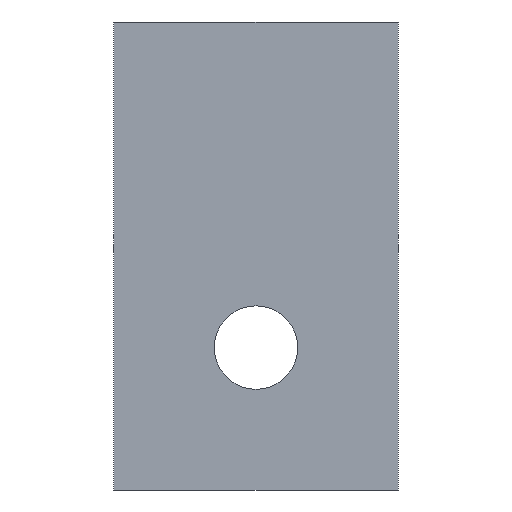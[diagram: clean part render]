
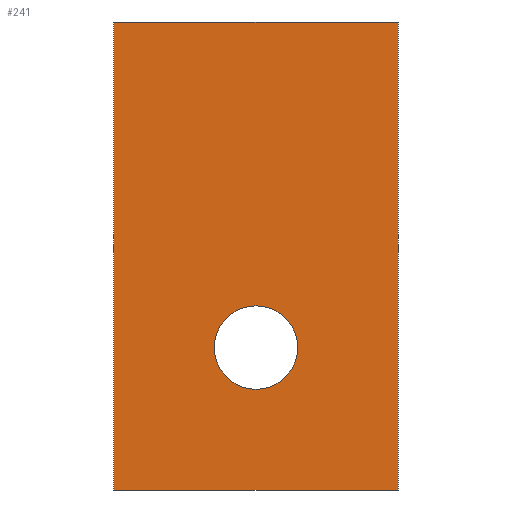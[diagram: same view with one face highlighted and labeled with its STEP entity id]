
A CAD part, front view. The second image highlights one B-rep face of the part: STEP entity #241.
In plain terms, the highlighted planar face has unit normal (0, -1, 0).
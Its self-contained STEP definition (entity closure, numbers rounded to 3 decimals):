
#12 = DIRECTION ( 'NONE',  ( 0., 1., 0. ) ) ;
#15 = VERTEX_POINT ( 'NONE', #225 ) ;
#17 = VERTEX_POINT ( 'NONE', #218 ) ;
#21 = FACE_BOUND ( 'NONE', #233, .T. ) ;
#33 = CARTESIAN_POINT ( 'NONE',  ( 35., 0., -69.75 ) ) ;
#39 = CARTESIAN_POINT ( 'NONE',  ( 35., 0., -80. ) ) ;
#53 = CARTESIAN_POINT ( 'NONE',  ( 0., 0., -115. ) ) ;
#54 = CARTESIAN_POINT ( 'NONE',  ( 0., 0., -115. ) ) ;
#55 = VERTEX_POINT ( 'NONE', #54 ) ;
#60 = DIRECTION ( 'NONE',  ( 0., 0., 1. ) ) ;
#62 = DIRECTION ( 'NONE',  ( 0., 1., 0. ) ) ;
#77 = VERTEX_POINT ( 'NONE', #246 ) ;
#82 = VECTOR ( 'NONE', #143, 1000. ) ;
#84 = ORIENTED_EDGE ( 'NONE', *, *, #126, .T. ) ;
#87 = PLANE ( 'NONE',  #154 ) ;
#108 = EDGE_CURVE ( 'NONE', #15, #77, #195, .T. ) ;
#112 = EDGE_CURVE ( 'NONE', #77, #55, #172, .T. ) ;
#116 = CARTESIAN_POINT ( 'NONE',  ( 0., 0., 0. ) ) ;
#117 = VERTEX_POINT ( 'NONE', #180 ) ;
#126 = EDGE_CURVE ( 'NONE', #184, #117, #229, .T. ) ;
#131 = CARTESIAN_POINT ( 'NONE',  ( 35., 0., -80. ) ) ;
#135 = EDGE_LOOP ( 'NONE', ( #150, #183, #208, #190 ) ) ;
#138 = VECTOR ( 'NONE', #60, 1000. ) ;
#143 = DIRECTION ( 'NONE',  ( 1., 0., 0. ) ) ;
#145 = CARTESIAN_POINT ( 'NONE',  ( 0., 0., 0. ) ) ;
#148 = DIRECTION ( 'NONE',  ( 0., 0., -1. ) ) ;
#150 = ORIENTED_EDGE ( 'NONE', *, *, #297, .F. ) ;
#154 = AXIS2_PLACEMENT_3D ( 'NONE', #211, #284, #162 ) ;
#162 = DIRECTION ( 'NONE',  ( 0., 0., -1. ) ) ;
#164 = DIRECTION ( 'NONE',  ( 0., 0., 1. ) ) ;
#172 = LINE ( 'NONE', #53, #185 ) ;
#180 = CARTESIAN_POINT ( 'NONE',  ( 35., 0., -90.25 ) ) ;
#181 = DIRECTION ( 'NONE',  ( 0., 0., 1. ) ) ;
#183 = ORIENTED_EDGE ( 'NONE', *, *, #112, .F. ) ;
#184 = VERTEX_POINT ( 'NONE', #33 ) ;
#185 = VECTOR ( 'NONE', #226, 1000. ) ;
#188 = FACE_OUTER_BOUND ( 'NONE', #135, .T. ) ;
#190 = ORIENTED_EDGE ( 'NONE', *, *, #290, .F. ) ;
#195 = LINE ( 'NONE', #271, #254 ) ;
#208 = ORIENTED_EDGE ( 'NONE', *, *, #108, .F. ) ;
#211 = CARTESIAN_POINT ( 'NONE',  ( 0., 0., 0. ) ) ;
#212 = AXIS2_PLACEMENT_3D ( 'NONE', #131, #12, #181 ) ;
#218 = CARTESIAN_POINT ( 'NONE',  ( 0., 0., 0. ) ) ;
#220 = AXIS2_PLACEMENT_3D ( 'NONE', #39, #62, #164 ) ;
#225 = CARTESIAN_POINT ( 'NONE',  ( 70., 0., 0. ) ) ;
#226 = DIRECTION ( 'NONE',  ( -1., 0., 0. ) ) ;
#228 = ORIENTED_EDGE ( 'NONE', *, *, #243, .T. ) ;
#229 = CIRCLE ( 'NONE', #212, 10.25 ) ;
#232 = CIRCLE ( 'NONE', #220, 10.25 ) ;
#233 = EDGE_LOOP ( 'NONE', ( #228, #84 ) ) ;
#241 = ADVANCED_FACE ( 'NONE', ( #188, #21 ), #87, .T. ) ;
#243 = EDGE_CURVE ( 'NONE', #117, #184, #232, .T. ) ;
#246 = CARTESIAN_POINT ( 'NONE',  ( 70., 0., -115. ) ) ;
#254 = VECTOR ( 'NONE', #148, 1000. ) ;
#271 = CARTESIAN_POINT ( 'NONE',  ( 70., 0., 0. ) ) ;
#272 = LINE ( 'NONE', #145, #82 ) ;
#274 = LINE ( 'NONE', #116, #138 ) ;
#284 = DIRECTION ( 'NONE',  ( 0., -1., 0. ) ) ;
#290 = EDGE_CURVE ( 'NONE', #17, #15, #272, .T. ) ;
#297 = EDGE_CURVE ( 'NONE', #55, #17, #274, .T. ) ;
